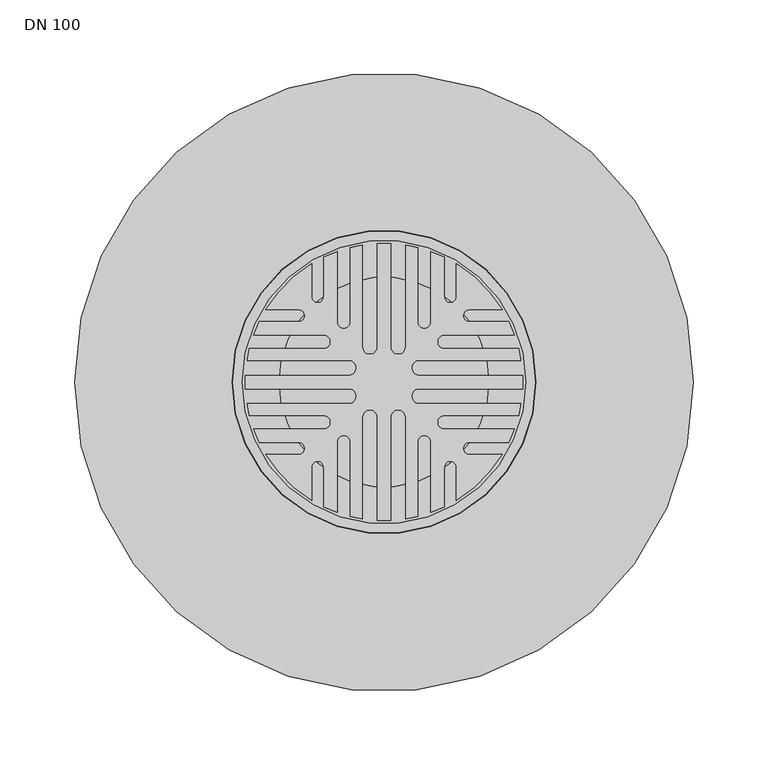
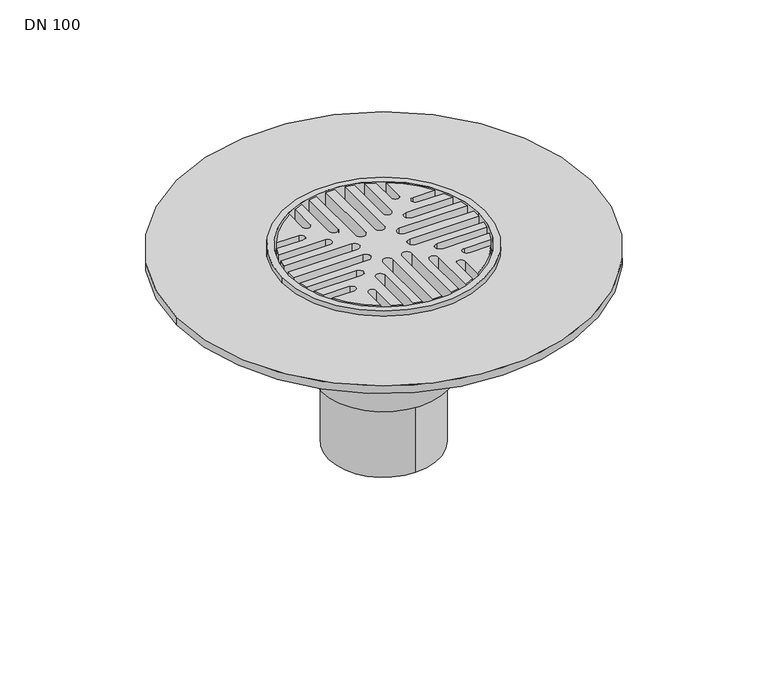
"""IFC4 building model written with IfcOpenShell, lengths in millimetres: sanitary terminal geometry, PF_GEN_UN_parkdeck gully Passavant_ACO : DN 100."""

from ifc_helpers import new_model, si_unit, point, frame, frame_2d, origin, origin_with_axes, origin_2d, place, context, project, spatial, polyline, circle_curve, trimmed, segment, composite_curve, outline, extrude, source, transform, mapped, element, save
from ifc_brep_helpers import plane_surface, cylinder_surface, revolved_surface, advanced_brep


def dn_100_d7c4cec7(model_context):
    return source(origin(), model_context, "Body", "SolidModel", [
        advanced_brep(
        [(-75.35, 0.0, -45.0), (75.35, 0.0, -45.0), (-70.35, 0.0, -45.0), (70.35, 0.0, -45.0), (75.35, 0.0, -21.0), (-75.35, 0.0, -21.0), (70.35, 0.0, -21.0), (-70.35, 0.0, -21.0), (95.0, 0.0, -16.0), (-95.0, 0.0, -16.0), (-70.35, 0.0, -16.0), (70.35, 0.0, -16.0), (-101.5, 0.0, -21.0), (101.5, 0.0, -21.0), (-101.5, 0.0, 0.0), (101.5, 0.0, 0.0), (-95.0, 0.0, 0.0), (95.0, 0.0, 0.0)],
        [
            (0, 1, circle_curve(frame((0.0, 0.0, -45.0), z_axis=(0.0, 0.0, -1.0), x_axis=(1.0, 0.0, 0.0)), 75.35)),
            (1, 0, circle_curve(frame((0.0, 0.0, -45.0), z_axis=(0.0, 0.0, -1.0), x_axis=(1.0, 0.0, 0.0)), 75.35)),
            (2, 3, circle_curve(frame((0.0, 0.0, -45.0), z_axis=(0.0, 0.0, 1.0), x_axis=(1.0, 0.0, 0.0)), 70.35)),
            (3, 2, circle_curve(frame((0.0, 0.0, -45.0), z_axis=(0.0, 0.0, 1.0), x_axis=(1.0, 0.0, 0.0)), 70.35)),
            (1, 4),
            (4, 5, circle_curve(frame((0.0, 0.0, -21.0), z_axis=(0.0, 0.0, -1.0), x_axis=(1.0, 0.0, 0.0)), 75.35)),
            (5, 0),
            (5, 4, circle_curve(frame((0.0, 0.0, -21.0), z_axis=(0.0, 0.0, -1.0), x_axis=(1.0, 0.0, 0.0)), 75.35)),
            (3, 6),
            (6, 7, circle_curve(frame((0.0, 0.0, -21.0), z_axis=(0.0, 0.0, 1.0), x_axis=(1.0, 0.0, 0.0)), 70.35)),
            (7, 2),
            (7, 6, circle_curve(frame((0.0, 0.0, -21.0), z_axis=(0.0, 0.0, 1.0), x_axis=(1.0, 0.0, 0.0)), 70.35)),
            (8, 9, circle_curve(frame((0.0, 0.0, -16.0), z_axis=(0.0, 0.0, 1.0), x_axis=(1.0, 0.0, 0.0)), 95.0)),
            (9, 8, circle_curve(frame((0.0, 0.0, -16.0), z_axis=(0.0, 0.0, 1.0), x_axis=(1.0, 0.0, 0.0)), 95.0)),
            (10, 11, circle_curve(frame((0.0, 0.0, -16.0), z_axis=(0.0, 0.0, -1.0), x_axis=(1.0, 0.0, 0.0)), 70.35)),
            (11, 10, circle_curve(frame((0.0, 0.0, -16.0), z_axis=(0.0, 0.0, -1.0), x_axis=(1.0, 0.0, 0.0)), 70.35)),
            (12, 13, circle_curve(frame((0.0, 0.0, -21.0), z_axis=(0.0, 0.0, -1.0), x_axis=(1.0, 0.0, 0.0)), 101.5)),
            (13, 12, circle_curve(frame((0.0, 0.0, -21.0), z_axis=(0.0, 0.0, -1.0), x_axis=(1.0, 0.0, 0.0)), 101.5)),
            (10, 7),
            (6, 11),
            (14, 15, circle_curve(origin_with_axes(), 101.5)),
            (15, 14, circle_curve(origin_with_axes(), 101.5)),
            (16, 17, circle_curve(frame((0.0, 0.0, 0.0), z_axis=(0.0, 0.0, -1.0), x_axis=(1.0, 0.0, 0.0)), 95.0)),
            (17, 16, circle_curve(frame((0.0, 0.0, 0.0), z_axis=(0.0, 0.0, -1.0), x_axis=(1.0, 0.0, 0.0)), 95.0)),
            (14, 12),
            (13, 15),
            (16, 9),
            (8, 17),
        ],
        [
            plane_surface(frame((75.35, 0.0, -45.0), z_axis=(0.0, 0.0, -1.0), x_axis=(0.0, -1.0, 0.0))),
            cylinder_surface(frame((0.0, 0.0, -45.0), z_axis=(0.0, 0.0, 1.0), x_axis=(1.0, 0.0, 0.0)), 75.35),
            revolved_surface(polyline([(70.35, 0.0, -45.0), (70.35, 0.0, -21.0)]), (0.0, 0.0, -25.0), (0.0, 0.0, -1.0)),
            plane_surface(frame((95.0, 0.0, -16.0), z_axis=(0.0, 0.0, 1.0), x_axis=(0.0, 1.0, 0.0))),
            plane_surface(frame((95.0, 0.0, -21.0), z_axis=(0.0, 0.0, -1.0), x_axis=(0.0, -1.0, 0.0))),
            revolved_surface(polyline([(70.35, 0.0, -21.0), (70.35, 0.0, -16.0)]), (0.0, 0.0, -25.0), (0.0, 0.0, -1.0)),
            plane_surface(frame((101.5, 0.0, 0.0), z_axis=(0.0, 0.0, 1.0), x_axis=(0.0, 1.0, 0.0))),
            cylinder_surface(frame((0.0, 0.0, -21.0), z_axis=(0.0, 0.0, 1.0), x_axis=(1.0, 0.0, 0.0)), 101.5),
            revolved_surface(polyline([(95.0, 0.0, -16.0), (95.0, 0.0, 0.0)]), (0.0, 0.0, -25.0), (0.0, 0.0, -1.0)),
        ],
        [
            (0, [[1, 2], [3, 4]]),
            (1, [[-2, 5, 6, 7]]),
            (1, [[-1, -7, 8, -5]]),
            (2, [[-4, 9, 10, 11]]),
            (2, [[-3, -11, 12, -9]]),
            (3, [[13, 14], [15, 16]]),
            (4, [[17, 18], [-6, -8]]),
            (5, [[-15, 19, -10, 20]]),
            (5, [[-16, -20, -12, -19]]),
            (6, [[21, 22], [23, 24]]),
            (7, [[-21, 25, -18, 26]]),
            (7, [[-22, -26, -17, -25]]),
            (8, [[-23, 27, -13, 28]]),
            (8, [[-24, -28, -14, -27]]),
        ],
    ),
        extrude(outline(composite_curve([segment(trimmed(circle_curve(frame_2d((-23.6421356, 9.5)), 5.0), [point((-23.6421356, 4.5))], [point((-23.6421356, 14.5))], True, "CARTESIAN"), True, "CONTINUOUS"), segment(polyline([(-23.6421356, 14.5), (-91.8626692, 14.5)]), True, "CONTINUOUS"), segment(trimmed(circle_curve(origin_2d(), 93.0), [point((-91.8626692, 14.5))], [point((-90.2371875, 22.5))], False, "CARTESIAN"), True, "CONTINUOUS"), segment(polyline([(-90.2371875, 22.5), (-40.4350288, 22.5)]), True, "CONTINUOUS"), segment(trimmed(circle_curve(frame_2d((-40.4350288, 27.0)), 4.5), [point((-40.4350288, 22.5))], [point((-40.4350288, 31.5))], True, "CARTESIAN"), True, "CONTINUOUS"), segment(polyline([(-40.4350288, 31.5), (-87.5028571, 31.5)]), True, "CONTINUOUS"), segment(trimmed(circle_curve(origin_2d(), 93.0), [point((-87.5028571, 31.5))], [point((-83.7182776, 40.5))], False, "CARTESIAN"), True, "CONTINUOUS"), segment(polyline([(-83.7182776, 40.5), (-57.2279221, 40.5)]), True, "CONTINUOUS"), segment(trimmed(circle_curve(frame_2d((-57.2279221, 44.5)), 4.0), [point((-57.2279221, 40.5))], [point((-57.2279221, 48.5))], True, "CARTESIAN"), True, "CONTINUOUS"), segment(polyline([(-57.2279221, 48.5), (-79.3520636, 48.5)]), True, "CONTINUOUS"), segment(trimmed(circle_curve(origin_2d(), 93.0), [point((-79.3520636, 48.5))], [point((-48.5, 79.3520636))], False, "CARTESIAN"), True, "CONTINUOUS"), segment(polyline([(-48.5, 79.3520636), (-48.5, 57.2279221)]), True, "CONTINUOUS"), segment(trimmed(circle_curve(frame_2d((-44.5, 57.2279221)), 4.0), [point((-48.5, 57.2279221))], [point((-40.5, 57.2279221))], True, "CARTESIAN"), True, "CONTINUOUS"), segment(polyline([(-40.5, 57.2279221), (-40.5, 83.7182776)]), True, "CONTINUOUS"), segment(trimmed(circle_curve(origin_2d(), 93.0), [point((-40.5, 83.7182776))], [point((-31.5, 87.5028571))], False, "CARTESIAN"), True, "CONTINUOUS"), segment(polyline([(-31.5, 87.5028571), (-31.5, 40.4350288)]), True, "CONTINUOUS"), segment(trimmed(circle_curve(frame_2d((-27.0, 40.4350288)), 4.5), [point((-31.5, 40.4350288))], [point((-22.5, 40.4350288))], True, "CARTESIAN"), True, "CONTINUOUS"), segment(polyline([(-22.5, 40.4350288), (-22.5, 90.2371875)]), True, "CONTINUOUS"), segment(trimmed(circle_curve(origin_2d(), 93.0), [point((-22.5, 90.2371875))], [point((-14.5, 91.8626692))], False, "CARTESIAN"), True, "CONTINUOUS"), segment(polyline([(-14.5, 91.8626692), (-14.5, 23.6421356)]), True, "CONTINUOUS"), segment(trimmed(circle_curve(frame_2d((-9.5, 23.6421356)), 5.0), [point((-14.5, 23.6421356))], [point((-4.5, 23.6421356))], True, "CARTESIAN"), True, "CONTINUOUS"), segment(polyline([(-4.5, 23.6421356), (-4.5, 92.8910652)]), True, "CONTINUOUS"), segment(trimmed(circle_curve(origin_2d(), 93.0), [point((-4.5, 92.8910652))], [point((4.5, 92.8910652))], False, "CARTESIAN"), True, "CONTINUOUS"), segment(polyline([(4.5, 92.8910652), (4.5, 23.6421356)]), True, "CONTINUOUS"), segment(trimmed(circle_curve(frame_2d((9.5, 23.6421356)), 5.0), [point((4.5, 23.6421356))], [point((14.5, 23.6421356))], True, "CARTESIAN"), True, "CONTINUOUS"), segment(polyline([(14.5, 23.6421356), (14.5, 91.8626692)]), True, "CONTINUOUS"), segment(trimmed(circle_curve(origin_2d(), 93.0), [point((14.5, 91.8626692))], [point((22.5, 90.2371875))], False, "CARTESIAN"), True, "CONTINUOUS"), segment(polyline([(22.5, 90.2371875), (22.5, 40.4350288)]), True, "CONTINUOUS"), segment(trimmed(circle_curve(frame_2d((27.0, 40.4350288)), 4.5), [point((22.5, 40.4350288))], [point((31.5, 40.4350288))], True, "CARTESIAN"), True, "CONTINUOUS"), segment(polyline([(31.5, 40.4350288), (31.5, 87.5028571)]), True, "CONTINUOUS"), segment(trimmed(circle_curve(origin_2d(), 93.0), [point((31.5, 87.5028571))], [point((40.5, 83.7182776))], False, "CARTESIAN"), True, "CONTINUOUS"), segment(polyline([(40.5, 83.7182776), (40.5, 57.2279221)]), True, "CONTINUOUS"), segment(trimmed(circle_curve(frame_2d((44.5, 57.2279221)), 4.0), [point((40.5, 57.2279221))], [point((48.5, 57.2279221))], True, "CARTESIAN"), True, "CONTINUOUS"), segment(polyline([(48.5, 57.2279221), (48.5, 79.3520636)]), True, "CONTINUOUS"), segment(trimmed(circle_curve(origin_2d(), 93.0), [point((48.5, 79.3520636))], [point((79.3520636, 48.5))], False, "CARTESIAN"), True, "CONTINUOUS"), segment(polyline([(79.3520636, 48.5), (57.2279221, 48.5)]), True, "CONTINUOUS"), segment(trimmed(circle_curve(frame_2d((57.2279221, 44.5)), 4.0), [point((57.2279221, 48.5))], [point((57.2279221, 40.5))], True, "CARTESIAN"), True, "CONTINUOUS"), segment(polyline([(57.2279221, 40.5), (83.7182776, 40.5)]), True, "CONTINUOUS"), segment(trimmed(circle_curve(origin_2d(), 93.0), [point((83.7182776, 40.5))], [point((87.5028571, 31.5))], False, "CARTESIAN"), True, "CONTINUOUS"), segment(polyline([(87.5028571, 31.5), (40.4350288, 31.5)]), True, "CONTINUOUS"), segment(trimmed(circle_curve(frame_2d((40.4350288, 27.0)), 4.5), [point((40.4350288, 31.5))], [point((40.4350288, 22.5))], True, "CARTESIAN"), True, "CONTINUOUS"), segment(polyline([(40.4350288, 22.5), (90.2371875, 22.5)]), True, "CONTINUOUS"), segment(trimmed(circle_curve(origin_2d(), 93.0), [point((90.2371875, 22.5))], [point((91.8626692, 14.5))], False, "CARTESIAN"), True, "CONTINUOUS"), segment(polyline([(91.8626692, 14.5), (23.6421356, 14.5)]), True, "CONTINUOUS"), segment(trimmed(circle_curve(frame_2d((23.6421356, 9.5)), 5.0), [point((23.6421356, 14.5))], [point((23.6421356, 4.5))], True, "CARTESIAN"), True, "CONTINUOUS"), segment(polyline([(23.6421356, 4.5), (66.0353516, 4.5), (73.1315188, 4.5), (92.8910652, 4.5)]), True, "CONTINUOUS"), segment(trimmed(circle_curve(origin_2d(), 93.0), [point((92.8910652, 4.5))], [point((92.8910652, -4.5))], False, "CARTESIAN"), True, "CONTINUOUS"), segment(polyline([(92.8910652, -4.5), (23.6421356, -4.5)]), True, "CONTINUOUS"), segment(trimmed(circle_curve(frame_2d((23.6421356, -9.5)), 5.0), [point((23.6421356, -4.5))], [point((23.6421356, -14.5))], True, "CARTESIAN"), True, "CONTINUOUS"), segment(polyline([(23.6421356, -14.5), (91.8626692, -14.5)]), True, "CONTINUOUS"), segment(trimmed(circle_curve(origin_2d(), 93.0), [point((91.8626692, -14.5))], [point((90.2371875, -22.5))], False, "CARTESIAN"), True, "CONTINUOUS"), segment(polyline([(90.2371875, -22.5), (40.4350288, -22.5)]), True, "CONTINUOUS"), segment(trimmed(circle_curve(frame_2d((40.4350288, -27.0)), 4.5), [point((40.4350288, -22.5))], [point((40.4350288, -31.5))], True, "CARTESIAN"), True, "CONTINUOUS"), segment(polyline([(40.4350288, -31.5), (87.5028571, -31.5)]), True, "CONTINUOUS"), segment(trimmed(circle_curve(origin_2d(), 93.0), [point((87.5028571, -31.5))], [point((83.7182776, -40.5))], False, "CARTESIAN"), True, "CONTINUOUS"), segment(polyline([(83.7182776, -40.5), (57.2279221, -40.5)]), True, "CONTINUOUS"), segment(trimmed(circle_curve(frame_2d((57.2279221, -44.5)), 4.0), [point((57.2279221, -40.5))], [point((57.2279221, -48.5))], True, "CARTESIAN"), True, "CONTINUOUS"), segment(polyline([(57.2279221, -48.5), (79.3520636, -48.5)]), True, "CONTINUOUS"), segment(trimmed(circle_curve(origin_2d(), 93.0), [point((79.3520636, -48.5))], [point((48.5, -79.3520636))], False, "CARTESIAN"), True, "CONTINUOUS"), segment(polyline([(48.5, -79.3520636), (48.5, -57.2279221)]), True, "CONTINUOUS"), segment(trimmed(circle_curve(frame_2d((44.5, -57.2279221)), 4.0), [point((48.5, -57.2279221))], [point((40.5, -57.2279221))], True, "CARTESIAN"), True, "CONTINUOUS"), segment(polyline([(40.5, -57.2279221), (40.5, -83.7182776)]), True, "CONTINUOUS"), segment(trimmed(circle_curve(origin_2d(), 93.0), [point((40.5, -83.7182776))], [point((31.5, -87.5028571))], False, "CARTESIAN"), True, "CONTINUOUS"), segment(polyline([(31.5, -87.5028571), (31.5, -40.4350288)]), True, "CONTINUOUS"), segment(trimmed(circle_curve(frame_2d((27.0, -40.4350288)), 4.5), [point((31.5, -40.4350288))], [point((22.5, -40.4350288))], True, "CARTESIAN"), True, "CONTINUOUS"), segment(polyline([(22.5, -40.4350288), (22.5, -90.2371875)]), True, "CONTINUOUS"), segment(trimmed(circle_curve(origin_2d(), 93.0), [point((22.5, -90.2371875))], [point((14.5, -91.8626692))], False, "CARTESIAN"), True, "CONTINUOUS"), segment(polyline([(14.5, -91.8626692), (14.5, -23.6421356)]), True, "CONTINUOUS"), segment(trimmed(circle_curve(frame_2d((9.5, -23.6421356)), 5.0), [point((14.5, -23.6421356))], [point((4.5, -23.6421356))], True, "CARTESIAN"), True, "CONTINUOUS"), segment(polyline([(4.5, -23.6421356), (4.5, -92.8910652)]), True, "CONTINUOUS"), segment(trimmed(circle_curve(origin_2d(), 93.0), [point((4.5, -92.8910652))], [point((-4.5, -92.8910652))], False, "CARTESIAN"), True, "CONTINUOUS"), segment(polyline([(-4.5, -92.8910652), (-4.5, -23.6421356)]), True, "CONTINUOUS"), segment(trimmed(circle_curve(frame_2d((-9.5, -23.6421356)), 5.0), [point((-4.5, -23.6421356))], [point((-14.5, -23.6421356))], True, "CARTESIAN"), True, "CONTINUOUS"), segment(polyline([(-14.5, -23.6421356), (-14.5, -91.8626692)]), True, "CONTINUOUS"), segment(trimmed(circle_curve(origin_2d(), 93.0), [point((-14.5, -91.8626692))], [point((-22.5, -90.2371875))], False, "CARTESIAN"), True, "CONTINUOUS"), segment(polyline([(-22.5, -90.2371875), (-22.5, -40.4350288)]), True, "CONTINUOUS"), segment(trimmed(circle_curve(frame_2d((-27.0, -40.4350288)), 4.5), [point((-22.5, -40.4350288))], [point((-31.5, -40.4350288))], True, "CARTESIAN"), True, "CONTINUOUS"), segment(polyline([(-31.5, -40.4350288), (-31.5, -87.5028571)]), True, "CONTINUOUS"), segment(trimmed(circle_curve(origin_2d(), 93.0), [point((-31.5, -87.5028571))], [point((-40.5, -83.7182776))], False, "CARTESIAN"), True, "CONTINUOUS"), segment(polyline([(-40.5, -83.7182776), (-40.5, -57.2279221)]), True, "CONTINUOUS"), segment(trimmed(circle_curve(frame_2d((-44.5, -57.2279221)), 4.0), [point((-40.5, -57.2279221))], [point((-48.5, -57.2279221))], True, "CARTESIAN"), True, "CONTINUOUS"), segment(polyline([(-48.5, -57.2279221), (-48.5, -79.3520636)]), True, "CONTINUOUS"), segment(trimmed(circle_curve(origin_2d(), 93.0), [point((-48.5, -79.3520636))], [point((-79.3520636, -48.5))], False, "CARTESIAN"), True, "CONTINUOUS"), segment(polyline([(-79.3520636, -48.5), (-57.2279221, -48.5)]), True, "CONTINUOUS"), segment(trimmed(circle_curve(frame_2d((-57.2279221, -44.5)), 4.0), [point((-57.2279221, -48.5))], [point((-57.2279221, -40.5))], True, "CARTESIAN"), True, "CONTINUOUS"), segment(polyline([(-57.2279221, -40.5), (-83.7182776, -40.5)]), True, "CONTINUOUS"), segment(trimmed(circle_curve(origin_2d(), 93.0), [point((-83.7182776, -40.5))], [point((-87.5028571, -31.5))], False, "CARTESIAN"), True, "CONTINUOUS"), segment(polyline([(-87.5028571, -31.5), (-40.4350288, -31.5)]), True, "CONTINUOUS"), segment(trimmed(circle_curve(frame_2d((-40.4350288, -27.0)), 4.5), [point((-40.4350288, -31.5))], [point((-40.4350288, -22.5))], True, "CARTESIAN"), True, "CONTINUOUS"), segment(polyline([(-40.4350288, -22.5), (-90.2371875, -22.5)]), True, "CONTINUOUS"), segment(trimmed(circle_curve(origin_2d(), 93.0), [point((-90.2371875, -22.5))], [point((-91.8626692, -14.5))], False, "CARTESIAN"), True, "CONTINUOUS"), segment(polyline([(-91.8626692, -14.5), (-23.6421356, -14.5)]), True, "CONTINUOUS"), segment(trimmed(circle_curve(frame_2d((-23.6421356, -9.5)), 5.0), [point((-23.6421356, -14.5))], [point((-23.6421356, -4.5))], True, "CARTESIAN"), True, "CONTINUOUS"), segment(polyline([(-23.6421356, -4.5), (-92.8910652, -4.5)]), True, "CONTINUOUS"), segment(trimmed(circle_curve(origin_2d(), 93.0), [point((-92.8910652, -4.5))], [point((-92.8910652, 4.5))], False, "CARTESIAN"), True, "CONTINUOUS"), segment(polyline([(-92.8910652, 4.5), (-23.6421356, 4.5)]), True, "CONTINUOUS")], self_intersect=False)), frame((0.0, 0.0, -16.0), z_axis=(0.0, 0.0, 1.0), x_axis=(1.0, 0.0, 0.0)), (0.0, 0.0, 1.0), 16.0),
        advanced_brep(
        [(96.5, 0.0, -59.0), (76.5, 0.0, -59.0), (99.0, 0.0, -34.0), (74.0, 0.0, -34.0)],
        [
            (0, 1, circle_curve(frame((86.5, 0.0, -59.0), z_axis=(0.0, 0.0, -1.0), x_axis=(1.0000000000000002, 0.0, 0.0)), 10.0)),
            (1, 0, circle_curve(frame((86.5, 0.0, -59.0), z_axis=(0.0, 0.0, -1.0), x_axis=(-1.0, 0.0, 0.0)), 10.0)),
            (2, 3, circle_curve(frame((86.5, 0.0, -34.0), z_axis=(0.0, 0.0, 1.0), x_axis=(-1.0, 0.0, 0.0)), 12.5)),
            (3, 2, circle_curve(frame((86.5, 0.0, -34.0), z_axis=(0.0, 0.0, 1.0), x_axis=(1.0000000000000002, 0.0, 0.0)), 12.5)),
            (3, 1),
            (0, 2),
        ],
        [
            plane_surface(frame((86.5, 0.0, -59.0), z_axis=(0.0, 0.0, -1.0), x_axis=(0.0, -1.0, 0.0))),
            plane_surface(frame((86.5, 0.0, -34.0), z_axis=(0.0, 0.0, 1.0), x_axis=(0.0, -1.0, 0.0))),
            revolved_surface(polyline([(96.5, 0.0, -59.0), (99.0, 0.0, -34.0)]), (86.5, 0.0, -159.0), (0.0, 0.0, 1.0)),
            revolved_surface(polyline([(76.5, 0.0, -59.0), (74.0, 0.0, -34.0)]), (86.5, 0.0, -159.0), (0.0, 0.0, 1.0)),
        ],
        [
            (0, [[1, 2]]),
            (1, [[3, 4]]),
            (2, [[-4, 5, -1, 6]]),
            (3, [[-3, -6, -2, -5]]),
        ],
    ),
        advanced_brep(
        [(0.0, -96.5, -59.0), (0.0, -76.5, -59.0), (0.0, -99.0, -34.0), (0.0, -74.0, -34.0)],
        [
            (0, 1, circle_curve(frame((0.0, -86.5, -59.0), z_axis=(0.0, 0.0, -1.0), x_axis=(0.0, -1.0000000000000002, 0.0)), 10.0)),
            (1, 0, circle_curve(frame((0.0, -86.5, -59.0), z_axis=(0.0, 0.0, -1.0), x_axis=(0.0, 1.0, 0.0)), 10.0)),
            (2, 3, circle_curve(frame((0.0, -86.5, -34.0), z_axis=(0.0, 0.0, 1.0), x_axis=(0.0, 1.0, 0.0)), 12.5)),
            (3, 2, circle_curve(frame((0.0, -86.5, -34.0), z_axis=(0.0, 0.0, 1.0), x_axis=(0.0, -1.0000000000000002, 0.0)), 12.5)),
            (3, 1),
            (0, 2),
        ],
        [
            plane_surface(frame((0.0, -86.5, -59.0), z_axis=(0.0, 0.0, -1.0), x_axis=(-1.0, 0.0, 0.0))),
            plane_surface(frame((0.0, -86.5, -34.0), z_axis=(0.0, 0.0, 1.0), x_axis=(-1.0, 0.0, 0.0))),
            revolved_surface(polyline([(0.0, -96.5, -59.0), (0.0, -99.0, -34.0)]), (0.0, -86.5, -159.0), (0.0, 0.0, 1.0)),
            revolved_surface(polyline([(0.0, -76.5, -59.0), (0.0, -74.0, -34.0)]), (0.0, -86.5, -159.0), (0.0, 0.0, 1.0)),
        ],
        [
            (0, [[1, 2]]),
            (1, [[3, 4]]),
            (2, [[-4, 5, -1, 6]]),
            (3, [[-3, -6, -2, -5]]),
        ],
    ),
        advanced_brep(
        [(-96.5, 0.0, -59.0), (-76.5, 0.0, -59.0), (-99.0, 0.0, -34.0), (-74.0, 0.0, -34.0)],
        [
            (0, 1, circle_curve(frame((-86.5, 0.0, -59.0), z_axis=(0.0, 0.0, -1.0), x_axis=(-1.0000000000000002, 0.0, 0.0)), 10.0)),
            (1, 0, circle_curve(frame((-86.5, 0.0, -59.0), z_axis=(0.0, 0.0, -1.0), x_axis=(1.0, 0.0, 0.0)), 10.0)),
            (2, 3, circle_curve(frame((-86.5, 0.0, -34.0), z_axis=(0.0, 0.0, 1.0), x_axis=(1.0, 0.0, 0.0)), 12.5)),
            (3, 2, circle_curve(frame((-86.5, 0.0, -34.0), z_axis=(0.0, 0.0, 1.0), x_axis=(-1.0000000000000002, 0.0, 0.0)), 12.5)),
            (3, 1),
            (0, 2),
        ],
        [
            plane_surface(frame((-86.5, 0.0, -59.0), z_axis=(0.0, 0.0, -1.0), x_axis=(0.0, 1.0, 0.0))),
            plane_surface(frame((-86.5, 0.0, -34.0), z_axis=(0.0, 0.0, 1.0), x_axis=(0.0, 1.0, 0.0))),
            revolved_surface(polyline([(-96.5, 0.0, -59.0), (-99.0, 0.0, -34.0)]), (-86.5, 0.0, -159.0), (0.0, 0.0, 1.0)),
            revolved_surface(polyline([(-76.5, 0.0, -59.0), (-74.0, 0.0, -34.0)]), (-86.5, 0.0, -159.0), (0.0, 0.0, 1.0)),
        ],
        [
            (0, [[1, 2]]),
            (1, [[3, 4]]),
            (2, [[-4, 5, -1, 6]]),
            (3, [[-3, -6, -2, -5]]),
        ],
    ),
        advanced_brep(
        [(0.0, 96.5, -59.0), (0.0, 76.5, -59.0), (0.0, 99.0, -34.0), (0.0, 74.0, -34.0)],
        [
            (0, 1, circle_curve(frame((0.0, 86.5, -59.0), z_axis=(0.0, 0.0, -1.0), x_axis=(0.0, 1.0000000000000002, 0.0)), 10.0)),
            (1, 0, circle_curve(frame((0.0, 86.5, -59.0), z_axis=(0.0, 0.0, -1.0), x_axis=(0.0, -1.0, 0.0)), 10.0)),
            (2, 3, circle_curve(frame((0.0, 86.5, -34.0), z_axis=(0.0, 0.0, 1.0), x_axis=(0.0, -1.0, 0.0)), 12.5)),
            (3, 2, circle_curve(frame((0.0, 86.5, -34.0), z_axis=(0.0, 0.0, 1.0), x_axis=(0.0, 1.0000000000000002, 0.0)), 12.5)),
            (3, 1),
            (0, 2),
        ],
        [
            plane_surface(frame((0.0, 86.5, -59.0), z_axis=(0.0, 0.0, -1.0), x_axis=(1.0, 0.0, 0.0))),
            plane_surface(frame((0.0, 86.5, -34.0), z_axis=(0.0, 0.0, 1.0), x_axis=(1.0, 0.0, 0.0))),
            revolved_surface(polyline([(0.0, 96.5, -59.0), (0.0, 99.0, -34.0)]), (0.0, 86.5, -159.0), (0.0, 0.0, 1.0)),
            revolved_surface(polyline([(0.0, 76.5, -59.0), (0.0, 74.0, -34.0)]), (0.0, 86.5, -159.0), (0.0, 0.0, 1.0)),
        ],
        [
            (0, [[1, 2]]),
            (1, [[3, 4]]),
            (2, [[-4, 5, -1, 6]]),
            (3, [[-3, -6, -2, -5]]),
        ],
    ),
        advanced_brep(
        [(-107.3, 0.0, -13.0), (-107.3, 0.0, -26.0), (107.3, 0.0, -26.0), (107.3, 0.0, -13.0), (-101.87, 0.0, -13.0), (-101.87, 0.0, -26.0), (101.87, 0.0, -26.0), (101.87, 0.0, -13.0), (-100.0, 0.0, -26.0), (100.0, 0.0, -26.0), (-107.3, 0.0, -34.0), (107.3, 0.0, -34.0), (-100.0, 0.0, -34.0), (100.0, 0.0, -34.0), (-207.5, 0.0, -5.0), (207.5, 0.0, -5.0), (-101.87, 0.0, -5.0), (101.87, 0.0, -5.0), (-207.5, 0.0, -13.0), (207.5, 0.0, -13.0)],
        [
            (0, 1),
            (1, 2, circle_curve(frame((0.0, 0.0, -26.0), z_axis=(0.0, 0.0, 1.0), x_axis=(1.0, 0.0, 0.0)), 107.3)),
            (2, 3),
            (3, 0, circle_curve(frame((0.0, 0.0, -13.0), z_axis=(0.0, 0.0, -1.0), x_axis=(1.0, 0.0, 0.0)), 107.3)),
            (0, 3, circle_curve(frame((0.0, 0.0, -13.0), z_axis=(0.0, 0.0, -1.0), x_axis=(1.0, 0.0, 0.0)), 107.3)),
            (2, 1, circle_curve(frame((0.0, 0.0, -26.0), z_axis=(0.0, 0.0, 1.0), x_axis=(1.0, 0.0, 0.0)), 107.3)),
            (4, 5),
            (5, 6, circle_curve(frame((0.0, 0.0, -26.0), z_axis=(0.0, 0.0, -1.0), x_axis=(1.0, 0.0, 0.0)), 101.87)),
            (6, 7),
            (7, 4, circle_curve(frame((0.0, 0.0, -13.0), z_axis=(0.0, 0.0, 1.0), x_axis=(1.0, 0.0, 0.0)), 101.87)),
            (4, 7, circle_curve(frame((0.0, 0.0, -13.0), z_axis=(0.0, 0.0, 1.0), x_axis=(1.0, 0.0, 0.0)), 101.87)),
            (6, 5, circle_curve(frame((0.0, 0.0, -26.0), z_axis=(0.0, 0.0, -1.0), x_axis=(1.0, 0.0, 0.0)), 101.87)),
            (8, 9, circle_curve(frame((0.0, 0.0, -26.0), z_axis=(0.0, 0.0, -1.0), x_axis=(1.0, 0.0, 0.0)), 100.0)),
            (9, 8, circle_curve(frame((0.0, 0.0, -26.0), z_axis=(0.0, 0.0, -1.0), x_axis=(1.0, 0.0, 0.0)), 100.0)),
            (10, 11, circle_curve(frame((0.0, 0.0, -34.0), z_axis=(0.0, 0.0, -1.0), x_axis=(1.0, 0.0, 0.0)), 107.3)),
            (11, 10, circle_curve(frame((0.0, 0.0, -34.0), z_axis=(0.0, 0.0, -1.0), x_axis=(1.0, 0.0, 0.0)), 107.3)),
            (12, 13, circle_curve(frame((0.0, 0.0, -34.0), z_axis=(0.0, 0.0, 1.0), x_axis=(1.0, 0.0, 0.0)), 100.0)),
            (13, 12, circle_curve(frame((0.0, 0.0, -34.0), z_axis=(0.0, 0.0, 1.0), x_axis=(1.0, 0.0, 0.0)), 100.0)),
            (8, 12),
            (13, 9),
            (11, 2),
            (1, 10),
            (14, 15, circle_curve(frame((0.0, 0.0, -5.0), z_axis=(0.0, 0.0, 1.0), x_axis=(1.0, 0.0, 0.0)), 207.5)),
            (15, 14, circle_curve(frame((0.0, 0.0, -5.0), z_axis=(0.0, 0.0, 1.0), x_axis=(1.0, 0.0, 0.0)), 207.5)),
            (16, 17, circle_curve(frame((0.0, 0.0, -5.0), z_axis=(0.0, 0.0, -1.0), x_axis=(1.0, 0.0, 0.0)), 101.87)),
            (17, 16, circle_curve(frame((0.0, 0.0, -5.0), z_axis=(0.0, 0.0, -1.0), x_axis=(1.0, 0.0, 0.0)), 101.87)),
            (18, 19, circle_curve(frame((0.0, 0.0, -13.0), z_axis=(0.0, 0.0, -1.0), x_axis=(1.0, 0.0, 0.0)), 207.5)),
            (19, 18, circle_curve(frame((0.0, 0.0, -13.0), z_axis=(0.0, 0.0, -1.0), x_axis=(1.0, 0.0, 0.0)), 207.5)),
            (14, 18),
            (19, 15),
            (16, 4),
            (7, 17),
        ],
        [
            cylinder_surface(frame((0.0, 0.0, -26.0), z_axis=(0.0, 0.0, 1.0), x_axis=(1.0, 0.0, 0.0)), 107.3),
            revolved_surface(polyline([(101.87, 0.0, -26.0), (101.87, 0.0, -13.0)]), (0.0, 0.0, -26.0), (0.0, 0.0, -1.0)),
            plane_surface(frame((100.0, 0.0, -26.0), z_axis=(0.0, 0.0, 1.0), x_axis=(0.0, -1.0, 0.0))),
            plane_surface(frame((100.0, 0.0, -34.0), z_axis=(0.0, 0.0, -1.0), x_axis=(0.0, 1.0, 0.0))),
            revolved_surface(polyline([(100.0, 0.0, -34.0), (100.0, 0.0, -26.0)]), (0.0, 0.0, -34.0), (0.0, 0.0, -1.0)),
            plane_surface(frame((207.5, 0.0, -5.0), z_axis=(0.0, 0.0, 1.0), x_axis=(0.0, 1.0, 0.0))),
            plane_surface(frame((207.5, 0.0, -13.0), z_axis=(0.0, 0.0, -1.0), x_axis=(0.0, -1.0, 0.0))),
            cylinder_surface(frame((0.0, 0.0, -13.0), z_axis=(0.0, 0.0, 1.0), x_axis=(1.0, 0.0, 0.0)), 207.5),
            revolved_surface(polyline([(101.87, 0.0, -13.0), (101.87, 0.0, -5.0)]), (0.0, 0.0, -26.0), (0.0, 0.0, -1.0)),
        ],
        [
            (0, [[1, 2, 3, 4]]),
            (0, [[-1, 5, -3, 6]]),
            (1, [[7, 8, 9, 10]]),
            (1, [[-7, 11, -9, 12]]),
            (2, [[-8, -12], [13, 14]]),
            (3, [[15, 16], [17, 18]]),
            (4, [[-13, 19, -18, 20]]),
            (4, [[-14, -20, -17, -19]]),
            (0, [[-16, 21, -2, 22]]),
            (0, [[-15, -22, -6, -21]]),
            (5, [[23, 24], [25, 26]]),
            (6, [[27, 28], [-4, -5]]),
            (7, [[-23, 29, -28, 30]]),
            (7, [[-24, -30, -27, -29]]),
            (8, [[-25, 31, -10, 32]]),
            (8, [[-26, -32, -11, -31]]),
        ],
    ),
        advanced_brep(
        [(-100.0, 0.0, -26.0), (100.0, 0.0, -26.0), (-100.0, 0.0, -34.0), (100.0, 0.0, -34.0), (-82.0, 0.0, -34.0), (82.0, 0.0, -34.0), (-82.0, 0.0, -59.63), (82.0, 0.0, -59.63), (67.2, 0.0, -69.98), (-67.2, 0.0, -69.98), (0.0, 55.0, -208.73), (0.0, -55.0, -208.73), (0.0, -55.0, -133.73), (0.0, 55.0, -133.73), (-62.85, 0.0, -133.73), (62.85, 0.0, -133.73)],
        [
            (0, 1, circle_curve(frame((0.0, 0.0, -26.0), z_axis=(0.0, 0.0, 1.0), x_axis=(1.0, 0.0, 0.0)), 100.0)),
            (1, 0, circle_curve(frame((0.0, 0.0, -26.0), z_axis=(0.0, 0.0, 1.0), x_axis=(1.0, 0.0, 0.0)), 100.0)),
            (2, 3, circle_curve(frame((0.0, 0.0, -34.0), z_axis=(0.0, 0.0, -1.0), x_axis=(1.0, 0.0, 0.0)), 100.0)),
            (3, 2, circle_curve(frame((0.0, 0.0, -34.0), z_axis=(0.0, 0.0, -1.0), x_axis=(1.0, 0.0, 0.0)), 100.0)),
            (4, 5, circle_curve(frame((0.0, 0.0, -34.0), z_axis=(0.0, 0.0, 1.0), x_axis=(1.0, 0.0, 0.0)), 82.0)),
            (5, 4, circle_curve(frame((0.0, 0.0, -34.0), z_axis=(0.0, 0.0, 1.0), x_axis=(1.0, 0.0, 0.0)), 82.0)),
            (4, 6),
            (6, 7, circle_curve(frame((0.0, 0.0, -59.63), z_axis=(0.0, 0.0, 1.0), x_axis=(1.0, 0.0, 0.0)), 82.0)),
            (7, 5),
            (7, 6, circle_curve(frame((0.0, 0.0, -59.63), z_axis=(0.0, 0.0, 1.0), x_axis=(1.0, 0.0, 0.0)), 82.0)),
            (8, 7),
            (6, 9),
            (9, 8, circle_curve(frame((0.0, 0.0, -69.98), z_axis=(0.0, 0.0, 1.0), x_axis=(-1.0, 0.0, 0.0)), 67.2)),
            (8, 9, circle_curve(frame((0.0, 0.0, -69.98), z_axis=(0.0, 0.0, 1.0), x_axis=(1.0, 0.0, 0.0)), 67.2)),
            (10, 11, circle_curve(frame((0.0, 0.0, -208.73), z_axis=(0.0, 0.0, -1.0), x_axis=(0.0, -1.0, 0.0)), 55.0)),
            (11, 10, circle_curve(frame((0.0, 0.0, -208.73), z_axis=(0.0, 0.0, -1.0), x_axis=(0.0, -1.0, 0.0)), 55.0)),
            (11, 12),
            (12, 13, circle_curve(frame((0.0, 0.0, -133.73), z_axis=(0.0, 0.0, -1.0), x_axis=(0.0, -1.0, 0.0)), 55.0)),
            (13, 10),
            (13, 12, circle_curve(frame((0.0, 0.0, -133.73), z_axis=(0.0, 0.0, -1.0), x_axis=(0.0, -1.0, 0.0)), 55.0)),
            (14, 15, circle_curve(frame((0.0, 0.0, -133.73), z_axis=(0.0, 0.0, -1.0), x_axis=(1.0, 0.0, 0.0)), 62.85)),
            (15, 14, circle_curve(frame((0.0, 0.0, -133.73), z_axis=(0.0, 0.0, -1.0), x_axis=(-1.0, 0.0, 0.0)), 62.85)),
            (15, 8),
            (9, 14),
            (0, 2),
            (3, 1),
        ],
        [
            plane_surface(frame((-10.0, 10.0, -26.0), z_axis=(0.0, 0.0, 1.0), x_axis=(-1.0, 0.0, 0.0))),
            plane_surface(frame((-10.0, 10.0, -34.0), z_axis=(0.0, 0.0, -1.0), x_axis=(1.0, 0.0, 0.0))),
            cylinder_surface(frame((0.0, 0.0, -59.63), z_axis=(0.0, 0.0, 1.0), x_axis=(1.0, 0.0, 0.0)), 82.0),
            revolved_surface(polyline([(67.20000000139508, 0.0, -69.98), (82.0, 0.0, -59.63)]), (0.0, 0.0, -116.9745946), (0.0, 0.0, 1.0)),
            plane_surface(frame((0.0, -55.0, -208.73), z_axis=(0.0, 0.0, -1.0), x_axis=(-1.0, 0.0, 0.0))),
            cylinder_surface(frame((0.0, 0.0, -208.73), z_axis=(0.0, 0.0, 1.0), x_axis=(0.0, -1.0, 0.0)), 55.0),
            plane_surface(frame((0.0, 0.0, -133.73), z_axis=(0.0, 0.0, -1.0), x_axis=(0.0, -1.0, 0.0))),
            revolved_surface(polyline([(62.84999999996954, 0.0, -133.73000000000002), (67.2, 0.0, -69.98000000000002)]), (0.0, 0.0, -1054.8075862), (0.0, 0.0, 1.0)),
            revolved_surface(polyline([(-62.84999999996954, 0.0, -133.73000000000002), (-67.2, 0.0, -69.98000000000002)]), (0.0, 0.0, -1054.8075862), (0.0, 0.0, 1.0)),
            cylinder_surface(frame((0.0, 0.0, -34.0), z_axis=(0.0, 0.0, 1.0), x_axis=(1.0, 0.0, 0.0)), 100.0),
        ],
        [
            (0, [[1, 2]]),
            (1, [[3, 4], [5, 6]]),
            (2, [[7, 8, 9, -5]]),
            (2, [[-7, -6, -9, 10]]),
            (3, [[11, -8, 12, 13]]),
            (3, [[-11, 14, -12, -10]]),
            (4, [[15, 16]]),
            (5, [[-16, 17, 18, 19]]),
            (5, [[-15, -19, 20, -17]]),
            (6, [[21, 22], [-18, -20]]),
            (7, [[-22, 23, -13, 24]]),
            (8, [[-21, -24, -14, -23]]),
            (9, [[-1, 25, -4, 26]]),
            (9, [[-2, -26, -3, -25]]),
        ],
    ),
    ])


if __name__ == "__main__":
    model = new_model("IFC4")
    model_context = context("Model", 3, world=origin())
    ifc_project = project(units=[si_unit("LENGTHUNIT", "METRE", prefix="MILLI")], contexts=[model_context])
    site = spatial("IfcSite", under=ifc_project)
    building = spatial("IfcBuilding", under=site)
    placement = place(None, origin())
    dn_100_shape = dn_100_d7c4cec7(model_context)
    element("IfcSanitaryTerminal", 1, ObjectType="PF_GEN_UN_parkdeck gully Passavant_ACO : DN 100", at=placement, inside=building, context=model_context, shape_type="MappedRepresentation", body=[
        mapped(dn_100_shape, transform((0.0, 0.0, 0.0), x_axis=(1.0, 0.0, 0.0), y_axis=(0.0, 1.0, 0.0), z_axis=(0.0, 0.0, 1.0))),
    ])
    save(model, "model.ifc")
